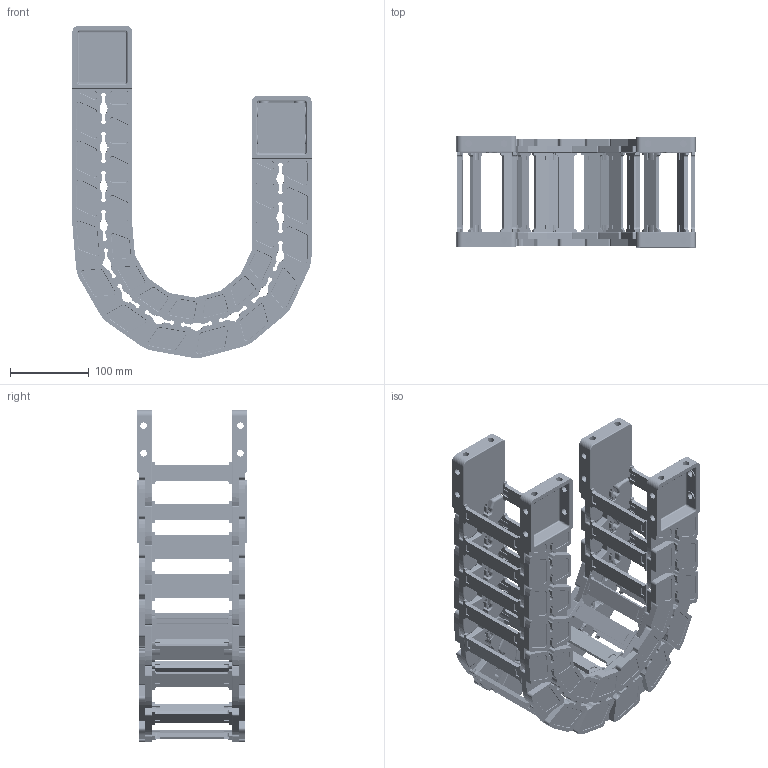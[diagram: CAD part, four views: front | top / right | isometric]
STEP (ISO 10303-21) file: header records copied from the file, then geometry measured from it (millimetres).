
FILE_DESCRIPTION((''),'2;1');
FILE_NAME('65X100-R115_ASM','2026-02-27T11:37:52',('admin'),(''),'CREO PARAMETRIC BY PTC INC, 2021023','CREO PARAMETRIC BY PTC INC, 2021023','');
FILE_SCHEMA(('CONFIG_CONTROL_DESIGN'));
Length unit declared in the file: millimetre
Products named in the file (9): 65ZT-R115-L; 25QSYP; 65ZT-R115-R; ASM0001_ASM; 65-LTT-A1; 65-LTT-A2; 65-LTT-B1; 65-LTT-B2; 65X100-R115_ASM
Assembly tree (24 placements, depth 3):
  65X100-R115_ASM
    ASM0001_ASM  x12
      65ZT-R115-L
      25QSYP
      65ZT-R115-R
    65-LTT-A1
    65-LTT-A2
    65-LTT-B1
    65-LTT-B2
    25QSYP  x4
Bounding box: 304.01 x 141 x 422.16 mm (x, y, z)
Volume: 1830194.3 mm3; surface area: 660704.9 mm2
Topology: 56 solids, 56 shells, 6660 faces, 18088 edges, 11395 vertices
Faces by surface type: plane 2528, cylinder 2314, bspline 820, cone 402, torus 258, extrusion 182, sphere 156
Entity records: 42597 total; most frequent: CARTESIAN_POINT 14792, ORIENTED_EDGE 6008, DIRECTION 5514, EDGE_CURVE 3004, AXIS2_PLACEMENT_3D 2006, VERTEX_POINT 1898, VECTOR 1502, LINE 1474
